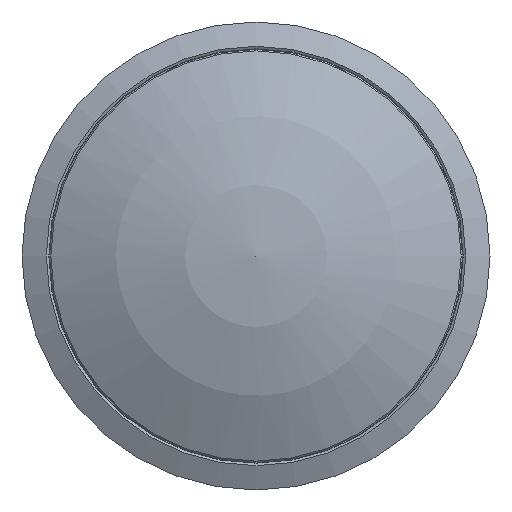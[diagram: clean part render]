
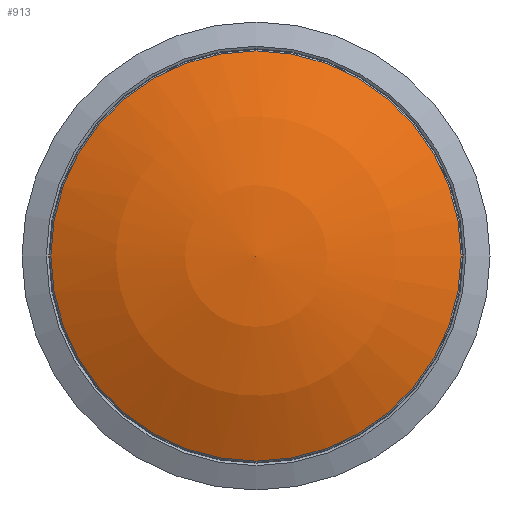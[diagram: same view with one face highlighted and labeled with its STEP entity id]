
A CAD part, left-side view. The second image highlights one B-rep face of the part: STEP entity #913.
In plain terms, the highlighted spherical face has radius 16 mm.
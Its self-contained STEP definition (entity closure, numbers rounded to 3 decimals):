
#41=SPHERICAL_SURFACE('',#993,16.);
#67=FACE_OUTER_BOUND('',#121,.T.);
#121=EDGE_LOOP('',(#633,#634,#635,#636));
#167=CIRCLE('',#994,7.45);
#168=CIRCLE('',#995,7.45);
#169=CIRCLE('',#996,16.);
#382=VERTEX_POINT('',#3992);
#383=VERTEX_POINT('',#3993);
#384=VERTEX_POINT('',#3996);
#485=EDGE_CURVE('',#382,#383,#167,.T.);
#486=EDGE_CURVE('',#383,#382,#168,.T.);
#487=EDGE_CURVE('',#384,#383,#169,.T.);
#633=ORIENTED_EDGE('',*,*,#485,.F.);
#634=ORIENTED_EDGE('',*,*,#486,.F.);
#635=ORIENTED_EDGE('',*,*,#487,.F.);
#636=ORIENTED_EDGE('',*,*,#487,.T.);
#913=ADVANCED_FACE('',(#67),#41,.T.);
#993=AXIS2_PLACEMENT_3D('',#3991,#1108,#1109);
#994=AXIS2_PLACEMENT_3D('',#3994,#1110,#1111);
#995=AXIS2_PLACEMENT_3D('',#3995,#1112,#1113);
#996=AXIS2_PLACEMENT_3D('',#3997,#1114,#1115);
#1108=DIRECTION('center_axis',(-1.,0.,0.));
#1109=DIRECTION('ref_axis',(0.,-1.,0.));
#1110=DIRECTION('center_axis',(1.,0.,0.));
#1111=DIRECTION('ref_axis',(0.,-1.,0.));
#1112=DIRECTION('center_axis',(1.,0.,0.));
#1113=DIRECTION('ref_axis',(0.,-1.,0.));
#1114=DIRECTION('center_axis',(0.,0.,-1.));
#1115=DIRECTION('ref_axis',(0.,1.,0.));
#3991=CARTESIAN_POINT('Origin',(584.851,-61.92,0.));
#3992=CARTESIAN_POINT('',(570.692,-69.37,0.));
#3993=CARTESIAN_POINT('',(570.692,-54.47,0.));
#3994=CARTESIAN_POINT('Origin',(570.692,-61.92,0.));
#3995=CARTESIAN_POINT('Origin',(570.692,-61.92,0.));
#3996=CARTESIAN_POINT('',(568.851,-61.92,0.));
#3997=CARTESIAN_POINT('Origin',(584.851,-61.92,0.));
